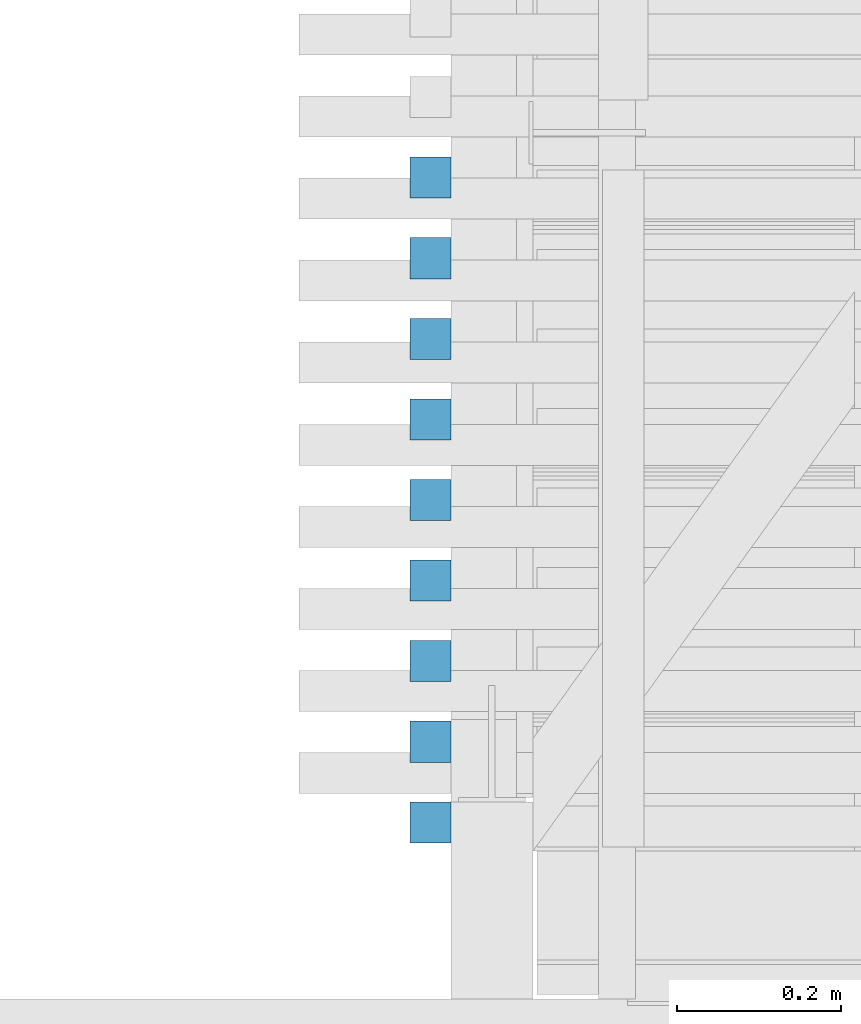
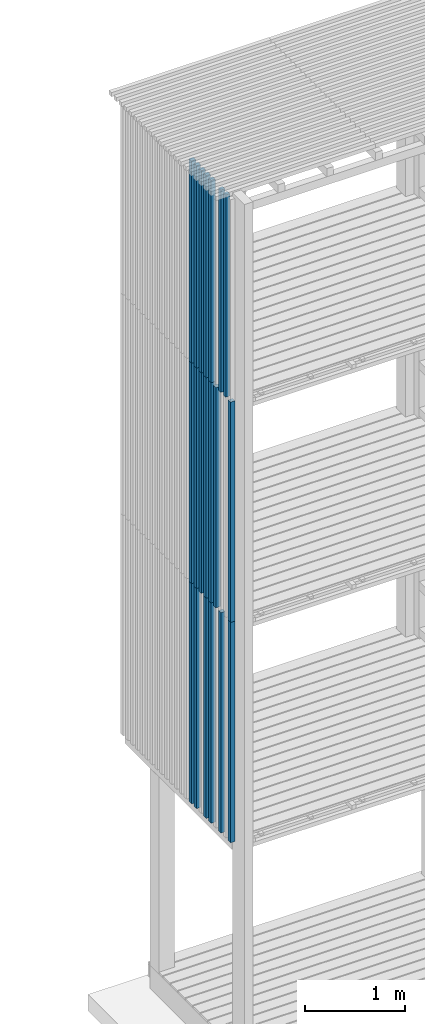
# One storey, part 135 of 182: 20 beams.
"""IFC2X3 building model written with IfcOpenShell, lengths in metres."""

from ifc_helpers import new_model, si_unit, frame, origin, place, context, project, spatial, faceted_brep, element, save


model = new_model("IFC2X3")

# Units and contexts
model_context = context("Model", 3, precision=1e-06, world=origin())
ifc_project = project(units=[si_unit("LENGTHUNIT", "METRE"), si_unit("PLANEANGLEUNIT", "RADIAN")], contexts=[model_context])

# Site, building, storey
site = spatial("IfcSite", under=ifc_project, CompositionType="ELEMENT")
building = spatial("IfcBuilding", under=site, CompositionType="ELEMENT")
storey = spatial("IfcBuildingStorey", under=building, Name="vs", CompositionType="ELEMENT", Elevation=-0.85)

# Beams
placement = place(None, origin())
beam_1_placement = place(placement, frame((33.029999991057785, 10.979623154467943, 5.274999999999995), z_axis=(1.0, 0.0, 0.0), x_axis=(0.0, 1e-15, 1.0)))
element("IfcBeam", 1, at=beam_1_placement, inside=storey, Name="Bardage", context=model_context, shape_type="Brep", body=[
    faceted_brep([(2.699999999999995, 0.025000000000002, 0.025000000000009), (2.699999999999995, -0.024999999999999, 0.025000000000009), (2.699999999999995, -0.024999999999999, -0.025000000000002), (2.699999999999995, 0.025000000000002, -0.025000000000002), (1e-15, 0.024999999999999, 0.025000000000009), (2.699999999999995, 0.025000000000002, 0.025000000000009), (2.699999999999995, 0.025000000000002, -0.025000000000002), (1e-15, 0.024999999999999, -0.025000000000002), (1e-15, -0.025000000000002, 0.025000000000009), (1e-15, 0.024999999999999, 0.025000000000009), (1e-15, 0.024999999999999, -0.025000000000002), (1e-15, -0.025000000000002, -0.025000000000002), (1e-15, 0.024999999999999, 0.025000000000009), (1e-15, -0.025000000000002, 0.025000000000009), (2.699999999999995, -0.024999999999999, 0.025000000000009), (2.699999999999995, 0.025000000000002, 0.025000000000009), (1e-15, -0.025000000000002, 0.025000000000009), (1e-15, -0.025000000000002, -0.025000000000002), (2.699999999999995, -0.024999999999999, -0.025000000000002), (2.699999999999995, -0.024999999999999, 0.025000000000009), (1e-15, -0.025000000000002, -0.025000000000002), (1e-15, 0.024999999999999, -0.025000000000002), (2.699999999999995, 0.025000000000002, -0.025000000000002), (2.699999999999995, -0.024999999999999, -0.025000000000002)], [[[0, 1, 2, 3]], [[4, 5, 6, 7]], [[8, 9, 10, 11]], [[12, 13, 14, 15]], [[16, 17, 18, 19]], [[20, 21, 22, 23]]]),
])
beam_2_placement = place(placement, frame((33.029999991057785, 11.274168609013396, 5.274999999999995), z_axis=(1.0, 0.0, 0.0), x_axis=(0.0, 0.0, 1.0)))
element("IfcBeam", 2, at=beam_2_placement, inside=storey, Name="Bardage", context=model_context, shape_type="Brep", body=[
    faceted_brep([(2.699999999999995, 0.025000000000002, 0.025000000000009), (2.699999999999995, -0.025000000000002, 0.025000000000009), (2.699999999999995, -0.025000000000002, -0.025000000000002), (2.699999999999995, 0.025000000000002, -0.025000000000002), (1e-15, 0.025000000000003, 0.025000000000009), (2.699999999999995, 0.025000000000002, 0.025000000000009), (2.699999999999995, 0.025000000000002, -0.025000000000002), (1e-15, 0.025000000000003, -0.025000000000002), (1e-15, -0.025000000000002, 0.025000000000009), (1e-15, 0.025000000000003, 0.025000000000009), (1e-15, 0.025000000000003, -0.025000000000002), (1e-15, -0.025000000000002, -0.025000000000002), (1e-15, 0.025000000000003, 0.025000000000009), (1e-15, -0.025000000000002, 0.025000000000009), (2.699999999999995, -0.025000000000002, 0.025000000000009), (2.699999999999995, 0.025000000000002, 0.025000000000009), (1e-15, -0.025000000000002, 0.025000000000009), (1e-15, -0.025000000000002, -0.025000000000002), (2.699999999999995, -0.025000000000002, -0.025000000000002), (2.699999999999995, -0.025000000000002, 0.025000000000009), (1e-15, -0.025000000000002, -0.025000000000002), (1e-15, 0.025000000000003, -0.025000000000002), (2.699999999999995, 0.025000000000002, -0.025000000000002), (2.699999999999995, -0.025000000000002, -0.025000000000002)], [[[0, 1, 2, 3]], [[4, 5, 6, 7]], [[8, 9, 10, 11]], [[12, 13, 14, 15]], [[16, 17, 18, 19]], [[20, 21, 22, 23]]]),
])
beam_3_placement = place(placement, frame((33.029999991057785, 10.6850776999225, 5.274999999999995), z_axis=(1.0, 0.0, 0.0), x_axis=(0.0, 0.0, 1.0)))
element("IfcBeam", 3, at=beam_3_placement, inside=storey, Name="Bardage", context=model_context, shape_type="Brep", body=[
    faceted_brep([(2.699999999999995, 0.025000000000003, 0.025000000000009), (2.699999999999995, -0.024999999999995, 0.025000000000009), (2.699999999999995, -0.024999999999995, -0.025000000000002), (2.699999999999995, 0.025000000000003, -0.025000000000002), (1e-15, 0.025000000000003, 0.025000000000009), (2.699999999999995, 0.025000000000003, 0.025000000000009), (2.699999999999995, 0.025000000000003, -0.025000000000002), (1e-15, 0.025000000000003, -0.025000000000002), (1e-15, -0.024999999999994, 0.025000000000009), (1e-15, 0.025000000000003, 0.025000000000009), (1e-15, 0.025000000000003, -0.025000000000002), (1e-15, -0.024999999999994, -0.025000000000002), (1e-15, 0.025000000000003, 0.025000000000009), (1e-15, -0.024999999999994, 0.025000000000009), (2.699999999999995, -0.024999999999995, 0.025000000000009), (2.699999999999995, 0.025000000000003, 0.025000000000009), (1e-15, -0.024999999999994, 0.025000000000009), (1e-15, -0.024999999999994, -0.025000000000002), (2.699999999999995, -0.024999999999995, -0.025000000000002), (2.699999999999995, -0.024999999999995, 0.025000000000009), (1e-15, -0.024999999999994, -0.025000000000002), (1e-15, 0.025000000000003, -0.025000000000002), (2.699999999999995, 0.025000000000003, -0.025000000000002), (2.699999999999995, -0.024999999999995, -0.025000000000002)], [[[0, 1, 2, 3]], [[4, 5, 6, 7]], [[8, 9, 10, 11]], [[12, 13, 14, 15]], [[16, 17, 18, 19]], [[20, 21, 22, 23]]]),
])
beam_4_placement = place(placement, frame((33.029999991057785, 11.470532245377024, 7.974999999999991), z_axis=(1.0, 0.0, 0.0), x_axis=(0.0, 0.0, 1.0)))
element("IfcBeam", 4, at=beam_4_placement, inside=storey, Name="Bardage", context=model_context, shape_type="Brep", body=[
    faceted_brep([(0.0, -0.025000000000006, 0.025000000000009), (0.0, 0.024999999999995, 0.025000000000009), (0.0, 0.024999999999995, -0.025000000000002), (0.0, -0.025000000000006, -0.025000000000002), (2.479999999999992, 0.024999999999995, -0.025000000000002), (2.479999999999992, 0.024999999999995, 0.025000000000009), (2.479999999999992, -0.025000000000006, 0.025000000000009), (2.479999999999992, -0.025000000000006, -0.025000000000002), (0.0, 0.024999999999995, 0.025000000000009), (0.0, -0.025000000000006, 0.025000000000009), (2.479999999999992, -0.025000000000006, 0.025000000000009), (2.479999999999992, 0.024999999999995, 0.025000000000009), (0.0, 0.024999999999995, -0.025000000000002), (0.0, 0.024999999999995, 0.025000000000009), (2.479999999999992, 0.024999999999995, 0.025000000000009), (2.479999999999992, 0.024999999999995, -0.025000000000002), (0.0, -0.025000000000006, -0.025000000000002), (0.0, 0.024999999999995, -0.025000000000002), (2.479999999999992, 0.024999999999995, -0.025000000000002), (2.479999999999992, -0.025000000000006, -0.025000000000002), (2.479999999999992, -0.025000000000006, 0.025000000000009), (0.0, -0.025000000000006, 0.025000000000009), (0.0, -0.025000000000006, -0.025000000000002), (2.479999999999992, -0.025000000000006, -0.025000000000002)], [[[0, 1, 2, 3]], [[4, 5, 6, 7]], [[8, 9, 10, 11]], [[12, 13, 14, 15]], [[16, 17, 18, 19]], [[20, 21, 22, 23]]]),
])
beam_5_placement = place(placement, frame((33.029999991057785, 11.175986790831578, 5.274999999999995), z_axis=(1.0, 0.0, 0.0), x_axis=(0.0, 0.0, 1.0)))
element("IfcBeam", 5, at=beam_5_placement, inside=storey, Name="Bardage", context=model_context, shape_type="Brep", body=[
    faceted_brep([(2.699999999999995, 0.024999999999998, 0.025000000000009), (2.699999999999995, -0.024999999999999, 0.025000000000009), (2.699999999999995, -0.024999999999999, -0.025000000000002), (2.699999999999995, 0.024999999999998, -0.025000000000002), (1e-15, 0.024999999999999, 0.025000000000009), (2.699999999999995, 0.024999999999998, 0.025000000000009), (2.699999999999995, 0.024999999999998, -0.025000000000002), (1e-15, 0.024999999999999, -0.025000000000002), (1e-15, -0.024999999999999, 0.025000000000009), (1e-15, 0.024999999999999, 0.025000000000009), (1e-15, 0.024999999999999, -0.025000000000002), (1e-15, -0.024999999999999, -0.025000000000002), (1e-15, 0.024999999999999, 0.025000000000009), (1e-15, -0.024999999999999, 0.025000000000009), (2.699999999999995, -0.024999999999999, 0.025000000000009), (2.699999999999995, 0.024999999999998, 0.025000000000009), (1e-15, -0.024999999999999, 0.025000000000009), (1e-15, -0.024999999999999, -0.025000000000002), (2.699999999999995, -0.024999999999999, -0.025000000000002), (2.699999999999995, -0.024999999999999, 0.025000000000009), (1e-15, -0.024999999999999, -0.025000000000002), (1e-15, 0.024999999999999, -0.025000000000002), (2.699999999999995, 0.024999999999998, -0.025000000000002), (2.699999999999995, -0.024999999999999, -0.025000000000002)], [[[0, 1, 2, 3]], [[4, 5, 6, 7]], [[8, 9, 10, 11]], [[12, 13, 14, 15]], [[16, 17, 18, 19]], [[20, 21, 22, 23]]]),
])
beam_6_placement = place(placement, frame((33.029999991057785, 11.372350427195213, 5.274999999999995), z_axis=(1.0, 0.0, 0.0), x_axis=(0.0, 0.0, 1.0)))
element("IfcBeam", 6, at=beam_6_placement, inside=storey, Name="Bardage", context=model_context, shape_type="Brep", body=[
    faceted_brep([(2.699999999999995, 0.024999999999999, 0.025000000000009), (2.699999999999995, -0.024999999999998, 0.025000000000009), (2.699999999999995, -0.024999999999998, -0.025000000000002), (2.699999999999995, 0.024999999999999, -0.025000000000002), (1e-15, 0.024999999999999, 0.025000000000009), (2.699999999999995, 0.024999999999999, 0.025000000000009), (2.699999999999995, 0.024999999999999, -0.025000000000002), (1e-15, 0.024999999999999, -0.025000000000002), (1e-15, -0.024999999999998, 0.025000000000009), (1e-15, 0.024999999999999, 0.025000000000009), (1e-15, 0.024999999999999, -0.025000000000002), (1e-15, -0.024999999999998, -0.025000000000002), (1e-15, 0.024999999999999, 0.025000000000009), (1e-15, -0.024999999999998, 0.025000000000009), (2.699999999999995, -0.024999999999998, 0.025000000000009), (2.699999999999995, 0.024999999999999, 0.025000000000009), (1e-15, -0.024999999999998, 0.025000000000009), (1e-15, -0.024999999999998, -0.025000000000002), (2.699999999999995, -0.024999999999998, -0.025000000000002), (2.699999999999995, -0.024999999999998, 0.025000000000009), (1e-15, -0.024999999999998, -0.025000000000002), (1e-15, 0.024999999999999, -0.025000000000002), (2.699999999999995, 0.024999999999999, -0.025000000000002), (2.699999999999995, -0.024999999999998, -0.025000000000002)], [[[0, 1, 2, 3]], [[4, 5, 6, 7]], [[8, 9, 10, 11]], [[12, 13, 14, 15]], [[16, 17, 18, 19]], [[20, 21, 22, 23]]]),
])
beam_7_placement = place(placement, frame((33.029999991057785, 11.077804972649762, 2.575000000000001), z_axis=(1.0, 0.0, 0.0), x_axis=(0.0, 0.0, 1.0)))
element("IfcBeam", 7, at=beam_7_placement, inside=storey, Name="Bardage", context=model_context, shape_type="Brep", body=[
    faceted_brep([(2.699961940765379, -0.024999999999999, 0.025000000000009), (2.699961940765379, -0.024999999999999, -0.025000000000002), (2.699961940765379, 0.025000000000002, -0.025000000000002), (2.699961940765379, 0.025000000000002, 0.025000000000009), (0.0, -0.024999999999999, 0.025000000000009), (2.699961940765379, -0.024999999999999, 0.025000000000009), (2.699961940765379, 0.025000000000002, 0.025000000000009), (0.0, 0.025000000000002, 0.025000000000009), (0.0, -0.024999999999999, 0.025000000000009), (0.0, 0.025000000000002, 0.025000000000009), (0.0, 0.025000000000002, -0.025000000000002), (0.0, -0.024999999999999, -0.025000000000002), (0.0, -0.024999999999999, 0.025000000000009), (0.0, -0.024999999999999, -0.025000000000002), (2.699961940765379, -0.024999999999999, -0.025000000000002), (2.699961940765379, -0.024999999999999, 0.025000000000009), (0.0, -0.024999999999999, -0.025000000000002), (0.0, 0.025000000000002, -0.025000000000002), (2.699961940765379, 0.025000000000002, -0.025000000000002), (2.699961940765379, -0.024999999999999, -0.025000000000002), (0.0, 0.025000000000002, -0.025000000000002), (0.0, 0.025000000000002, 0.025000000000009), (2.699961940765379, 0.025000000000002, 0.025000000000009), (2.699961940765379, 0.025000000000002, -0.025000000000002)], [[[0, 1, 2, 3]], [[4, 5, 6, 7]], [[8, 9, 10, 11]], [[12, 13, 14, 15]], [[16, 17, 18, 19]], [[20, 21, 22, 23]]]),
])
beam_8_placement = place(placement, frame((33.029999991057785, 10.783259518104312, 7.974999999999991), z_axis=(1.0, 0.0, 0.0), x_axis=(0.0, 0.0, 1.0)))
element("IfcBeam", 8, at=beam_8_placement, inside=storey, Name="Bardage", context=model_context, shape_type="Brep", body=[
    faceted_brep([(0.0, -0.024999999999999, 0.025000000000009), (0.0, 0.025000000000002, 0.025000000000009), (0.0, 0.025000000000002, -0.025000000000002), (0.0, -0.024999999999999, -0.025000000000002), (2.479999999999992, 0.025000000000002, -0.025000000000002), (2.479999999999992, 0.025000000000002, 0.025000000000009), (2.479999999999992, -0.024999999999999, 0.025000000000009), (2.479999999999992, -0.024999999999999, -0.025000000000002), (0.0, 0.025000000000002, 0.025000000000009), (0.0, -0.024999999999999, 0.025000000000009), (2.479999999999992, -0.024999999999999, 0.025000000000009), (2.479999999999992, 0.025000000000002, 0.025000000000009), (0.0, 0.025000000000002, -0.025000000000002), (0.0, 0.025000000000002, 0.025000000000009), (2.479999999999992, 0.025000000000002, 0.025000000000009), (2.479999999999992, 0.025000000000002, -0.025000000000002), (0.0, -0.024999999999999, -0.025000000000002), (0.0, 0.025000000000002, -0.025000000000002), (2.479999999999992, 0.025000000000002, -0.025000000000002), (2.479999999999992, -0.024999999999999, -0.025000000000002), (2.479999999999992, -0.024999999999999, 0.025000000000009), (0.0, -0.024999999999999, 0.025000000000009), (0.0, -0.024999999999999, -0.025000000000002), (2.479999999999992, -0.024999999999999, -0.025000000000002)], [[[0, 1, 2, 3]], [[4, 5, 6, 7]], [[8, 9, 10, 11]], [[12, 13, 14, 15]], [[16, 17, 18, 19]], [[20, 21, 22, 23]]]),
])
beam_9_placement = place(placement, frame((33.029999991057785, 10.881441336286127, 7.974999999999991), z_axis=(1.0, 0.0, 0.0), x_axis=(0.0, 0.0, 1.0)))
element("IfcBeam", 9, at=beam_9_placement, inside=storey, Name="Bardage", context=model_context, shape_type="Brep", body=[
    faceted_brep([(0.0, -0.024999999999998, 0.025000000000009), (0.0, 0.024999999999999, 0.025000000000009), (0.0, 0.024999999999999, -0.025000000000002), (0.0, -0.024999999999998, -0.025000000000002), (2.479999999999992, 0.024999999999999, -0.025000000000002), (2.479999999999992, 0.024999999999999, 0.025000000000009), (2.479999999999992, -0.024999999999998, 0.025000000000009), (2.479999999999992, -0.024999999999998, -0.025000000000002), (0.0, 0.024999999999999, 0.025000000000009), (0.0, -0.024999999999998, 0.025000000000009), (2.479999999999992, -0.024999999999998, 0.025000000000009), (2.479999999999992, 0.024999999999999, 0.025000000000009), (0.0, 0.024999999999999, -0.025000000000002), (0.0, 0.024999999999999, 0.025000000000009), (2.479999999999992, 0.024999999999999, 0.025000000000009), (2.479999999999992, 0.024999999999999, -0.025000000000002), (0.0, -0.024999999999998, -0.025000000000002), (0.0, 0.024999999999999, -0.025000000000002), (2.479999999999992, 0.024999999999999, -0.025000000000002), (2.479999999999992, -0.024999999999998, -0.025000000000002), (2.479999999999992, -0.024999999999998, 0.025000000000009), (0.0, -0.024999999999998, 0.025000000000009), (0.0, -0.024999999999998, -0.025000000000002), (2.479999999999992, -0.024999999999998, -0.025000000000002)], [[[0, 1, 2, 3]], [[4, 5, 6, 7]], [[8, 9, 10, 11]], [[12, 13, 14, 15]], [[16, 17, 18, 19]], [[20, 21, 22, 23]]]),
])
beam_10_placement = place(placement, frame((33.029999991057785, 11.175986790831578, 2.575000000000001), z_axis=(1.0, 0.0, 0.0), x_axis=(0.0, 0.0, 1.0)))
element("IfcBeam", 10, at=beam_10_placement, inside=storey, Name="Bardage", context=model_context, shape_type="Brep", body=[
    faceted_brep([(2.699961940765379, -0.025000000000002, 0.025000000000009), (2.699961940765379, -0.025000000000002, -0.025000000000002), (2.699961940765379, 0.024999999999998, -0.025000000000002), (2.699961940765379, 0.024999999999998, 0.025000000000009), (0.0, -0.024999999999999, 0.025000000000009), (2.699961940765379, -0.025000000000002, 0.025000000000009), (2.699961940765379, 0.024999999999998, 0.025000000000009), (0.0, 0.024999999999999, 0.025000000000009), (0.0, -0.024999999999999, 0.025000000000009), (0.0, 0.024999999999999, 0.025000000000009), (0.0, 0.024999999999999, -0.025000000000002), (0.0, -0.024999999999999, -0.025000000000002), (0.0, -0.024999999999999, 0.025000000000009), (0.0, -0.024999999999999, -0.025000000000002), (2.699961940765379, -0.025000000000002, -0.025000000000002), (2.699961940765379, -0.025000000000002, 0.025000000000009), (0.0, -0.024999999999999, -0.025000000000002), (0.0, 0.024999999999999, -0.025000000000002), (2.699961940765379, 0.024999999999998, -0.025000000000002), (2.699961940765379, -0.025000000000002, -0.025000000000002), (0.0, 0.024999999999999, -0.025000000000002), (0.0, 0.024999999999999, 0.025000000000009), (2.699961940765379, 0.024999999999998, 0.025000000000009), (2.699961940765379, 0.024999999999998, -0.025000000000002)], [[[0, 1, 2, 3]], [[4, 5, 6, 7]], [[8, 9, 10, 11]], [[12, 13, 14, 15]], [[16, 17, 18, 19]], [[20, 21, 22, 23]]]),
])
beam_11_placement = place(placement, frame((33.029999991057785, 11.372350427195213, 7.974999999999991), z_axis=(1.0, 0.0, 0.0), x_axis=(0.0, 0.0, 1.0)))
element("IfcBeam", 11, at=beam_11_placement, inside=storey, Name="Bardage", context=model_context, shape_type="Brep", body=[
    faceted_brep([(0.0, -0.024999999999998, 0.025000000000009), (0.0, 0.024999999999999, 0.025000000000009), (0.0, 0.024999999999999, -0.025000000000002), (0.0, -0.024999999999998, -0.025000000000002), (2.479999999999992, 0.024999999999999, -0.025000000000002), (2.479999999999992, 0.024999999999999, 0.025000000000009), (2.479999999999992, -0.024999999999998, 0.025000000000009), (2.479999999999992, -0.024999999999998, -0.025000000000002), (0.0, 0.024999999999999, 0.025000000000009), (0.0, -0.024999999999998, 0.025000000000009), (2.479999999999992, -0.024999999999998, 0.025000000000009), (2.479999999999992, 0.024999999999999, 0.025000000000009), (0.0, 0.024999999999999, -0.025000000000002), (0.0, 0.024999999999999, 0.025000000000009), (2.479999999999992, 0.024999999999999, 0.025000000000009), (2.479999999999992, 0.024999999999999, -0.025000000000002), (0.0, -0.024999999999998, -0.025000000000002), (0.0, 0.024999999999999, -0.025000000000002), (2.479999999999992, 0.024999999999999, -0.025000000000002), (2.479999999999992, -0.024999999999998, -0.025000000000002), (2.479999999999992, -0.024999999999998, 0.025000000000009), (0.0, -0.024999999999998, 0.025000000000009), (0.0, -0.024999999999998, -0.025000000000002), (2.479999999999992, -0.024999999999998, -0.025000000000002)], [[[0, 1, 2, 3]], [[4, 5, 6, 7]], [[8, 9, 10, 11]], [[12, 13, 14, 15]], [[16, 17, 18, 19]], [[20, 21, 22, 23]]]),
])
beam_12_placement = place(placement, frame((33.029999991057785, 11.372350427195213, 2.575000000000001), z_axis=(1.0, 0.0, 0.0), x_axis=(0.0, 0.0, 1.0)))
element("IfcBeam", 12, at=beam_12_placement, inside=storey, Name="Bardage", context=model_context, shape_type="Brep", body=[
    faceted_brep([(2.699961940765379, -0.024999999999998, 0.025000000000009), (2.699961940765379, -0.024999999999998, -0.025000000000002), (2.699961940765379, 0.024999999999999, -0.025000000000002), (2.699961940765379, 0.024999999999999, 0.025000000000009), (0.0, -0.024999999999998, 0.025000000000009), (2.699961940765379, -0.024999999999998, 0.025000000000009), (2.699961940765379, 0.024999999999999, 0.025000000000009), (0.0, 0.024999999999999, 0.025000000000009), (0.0, -0.024999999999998, 0.025000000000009), (0.0, 0.024999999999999, 0.025000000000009), (0.0, 0.024999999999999, -0.025000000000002), (0.0, -0.024999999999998, -0.025000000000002), (0.0, -0.024999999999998, 0.025000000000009), (0.0, -0.024999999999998, -0.025000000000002), (2.699961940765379, -0.024999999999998, -0.025000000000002), (2.699961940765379, -0.024999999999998, 0.025000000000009), (0.0, -0.024999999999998, -0.025000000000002), (0.0, 0.024999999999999, -0.025000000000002), (2.699961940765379, 0.024999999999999, -0.025000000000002), (2.699961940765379, -0.024999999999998, -0.025000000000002), (0.0, 0.024999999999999, -0.025000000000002), (0.0, 0.024999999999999, 0.025000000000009), (2.699961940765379, 0.024999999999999, 0.025000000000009), (2.699961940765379, 0.024999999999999, -0.025000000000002)], [[[0, 1, 2, 3]], [[4, 5, 6, 7]], [[8, 9, 10, 11]], [[12, 13, 14, 15]], [[16, 17, 18, 19]], [[20, 21, 22, 23]]]),
])
beam_13_placement = place(placement, frame((33.029999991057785, 11.175986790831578, 7.974999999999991), z_axis=(1.0, 0.0, 0.0), x_axis=(0.0, 0.0, 1.0)))
element("IfcBeam", 13, at=beam_13_placement, inside=storey, Name="Bardage", context=model_context, shape_type="Brep", body=[
    faceted_brep([(0.0, -0.024999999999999, 0.025000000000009), (0.0, 0.024999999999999, 0.025000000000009), (0.0, 0.024999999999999, -0.025000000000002), (0.0, -0.024999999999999, -0.025000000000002), (2.479999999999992, 0.024999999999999, -0.025000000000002), (2.479999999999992, 0.024999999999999, 0.025000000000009), (2.479999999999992, -0.024999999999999, 0.025000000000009), (2.479999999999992, -0.024999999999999, -0.025000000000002), (0.0, 0.024999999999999, 0.025000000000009), (0.0, -0.024999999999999, 0.025000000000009), (2.479999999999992, -0.024999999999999, 0.025000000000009), (2.479999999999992, 0.024999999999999, 0.025000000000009), (0.0, 0.024999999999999, -0.025000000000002), (0.0, 0.024999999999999, 0.025000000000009), (2.479999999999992, 0.024999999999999, 0.025000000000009), (2.479999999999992, 0.024999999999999, -0.025000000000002), (0.0, -0.024999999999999, -0.025000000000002), (0.0, 0.024999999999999, -0.025000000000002), (2.479999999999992, 0.024999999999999, -0.025000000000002), (2.479999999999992, -0.024999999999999, -0.025000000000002), (2.479999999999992, -0.024999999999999, 0.025000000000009), (0.0, -0.024999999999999, 0.025000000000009), (0.0, -0.024999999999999, -0.025000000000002), (2.479999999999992, -0.024999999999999, -0.025000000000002)], [[[0, 1, 2, 3]], [[4, 5, 6, 7]], [[8, 9, 10, 11]], [[12, 13, 14, 15]], [[16, 17, 18, 19]], [[20, 21, 22, 23]]]),
])
beam_14_placement = place(placement, frame((33.029999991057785, 10.6850776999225, 2.575000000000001), z_axis=(1.0, 0.0, 0.0), x_axis=(0.0, 0.0, 1.0)))
element("IfcBeam", 14, at=beam_14_placement, inside=storey, Name="Bardage", context=model_context, shape_type="Brep", body=[
    faceted_brep([(2.699961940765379, -0.024999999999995, 0.025000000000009), (2.699961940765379, -0.024999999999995, -0.025000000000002), (2.699961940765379, 0.025000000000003, -0.025000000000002), (2.699961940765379, 0.025000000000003, 0.025000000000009), (0.0, -0.024999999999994, 0.025000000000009), (2.699961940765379, -0.024999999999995, 0.025000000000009), (2.699961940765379, 0.025000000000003, 0.025000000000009), (0.0, 0.025000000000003, 0.025000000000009), (0.0, -0.024999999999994, 0.025000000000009), (0.0, 0.025000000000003, 0.025000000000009), (0.0, 0.025000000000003, -0.025000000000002), (0.0, -0.024999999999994, -0.025000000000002), (0.0, -0.024999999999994, 0.025000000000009), (0.0, -0.024999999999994, -0.025000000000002), (2.699961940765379, -0.024999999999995, -0.025000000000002), (2.699961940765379, -0.024999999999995, 0.025000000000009), (0.0, -0.024999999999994, -0.025000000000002), (0.0, 0.025000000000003, -0.025000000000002), (2.699961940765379, 0.025000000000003, -0.025000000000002), (2.699961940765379, -0.024999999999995, -0.025000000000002), (0.0, 0.025000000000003, -0.025000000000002), (0.0, 0.025000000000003, 0.025000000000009), (2.699961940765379, 0.025000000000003, 0.025000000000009), (2.699961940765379, 0.025000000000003, -0.025000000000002)], [[[0, 1, 2, 3]], [[4, 5, 6, 7]], [[8, 9, 10, 11]], [[12, 13, 14, 15]], [[16, 17, 18, 19]], [[20, 21, 22, 23]]]),
])
beam_15_placement = place(placement, frame((33.029999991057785, 10.881441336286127, 2.575000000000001), z_axis=(1.0, 0.0, 0.0), x_axis=(0.0, 0.0, 1.0)))
element("IfcBeam", 15, at=beam_15_placement, inside=storey, Name="Bardage", context=model_context, shape_type="Brep", body=[
    faceted_brep([(2.699961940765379, -0.024999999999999, 0.025000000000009), (2.699961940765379, -0.024999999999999, -0.025000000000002), (2.699961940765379, 0.024999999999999, -0.025000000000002), (2.699961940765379, 0.024999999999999, 0.025000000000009), (0.0, -0.024999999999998, 0.025000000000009), (2.699961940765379, -0.024999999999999, 0.025000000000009), (2.699961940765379, 0.024999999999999, 0.025000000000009), (0.0, 0.024999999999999, 0.025000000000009), (0.0, -0.024999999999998, 0.025000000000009), (0.0, 0.024999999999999, 0.025000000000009), (0.0, 0.024999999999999, -0.025000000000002), (0.0, -0.024999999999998, -0.025000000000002), (0.0, -0.024999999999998, 0.025000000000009), (0.0, -0.024999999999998, -0.025000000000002), (2.699961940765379, -0.024999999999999, -0.025000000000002), (2.699961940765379, -0.024999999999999, 0.025000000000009), (0.0, -0.024999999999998, -0.025000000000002), (0.0, 0.024999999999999, -0.025000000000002), (2.699961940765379, 0.024999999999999, -0.025000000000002), (2.699961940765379, -0.024999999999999, -0.025000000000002), (0.0, 0.024999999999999, -0.025000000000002), (0.0, 0.024999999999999, 0.025000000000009), (2.699961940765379, 0.024999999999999, 0.025000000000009), (2.699961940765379, 0.024999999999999, -0.025000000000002)], [[[0, 1, 2, 3]], [[4, 5, 6, 7]], [[8, 9, 10, 11]], [[12, 13, 14, 15]], [[16, 17, 18, 19]], [[20, 21, 22, 23]]]),
])
beam_16_placement = place(placement, frame((33.029999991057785, 11.077804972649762, 5.274999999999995), z_axis=(1.0, 0.0, 0.0), x_axis=(0.0, 0.0, 1.0)))
element("IfcBeam", 16, at=beam_16_placement, inside=storey, Name="Bardage", context=model_context, shape_type="Brep", body=[
    faceted_brep([(2.699999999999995, 0.025000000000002, 0.025000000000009), (2.699999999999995, -0.024999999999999, 0.025000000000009), (2.699999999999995, -0.024999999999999, -0.025000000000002), (2.699999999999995, 0.025000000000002, -0.025000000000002), (1e-15, 0.025000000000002, 0.025000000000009), (2.699999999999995, 0.025000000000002, 0.025000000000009), (2.699999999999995, 0.025000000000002, -0.025000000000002), (1e-15, 0.025000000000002, -0.025000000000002), (1e-15, -0.024999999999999, 0.025000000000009), (1e-15, 0.025000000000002, 0.025000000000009), (1e-15, 0.025000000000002, -0.025000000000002), (1e-15, -0.024999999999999, -0.025000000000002), (1e-15, 0.025000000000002, 0.025000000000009), (1e-15, -0.024999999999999, 0.025000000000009), (2.699999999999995, -0.024999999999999, 0.025000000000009), (2.699999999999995, 0.025000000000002, 0.025000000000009), (1e-15, -0.024999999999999, 0.025000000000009), (1e-15, -0.024999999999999, -0.025000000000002), (2.699999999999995, -0.024999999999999, -0.025000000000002), (2.699999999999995, -0.024999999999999, 0.025000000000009), (1e-15, -0.024999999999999, -0.025000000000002), (1e-15, 0.025000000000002, -0.025000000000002), (2.699999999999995, 0.025000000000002, -0.025000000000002), (2.699999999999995, -0.024999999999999, -0.025000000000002)], [[[0, 1, 2, 3]], [[4, 5, 6, 7]], [[8, 9, 10, 11]], [[12, 13, 14, 15]], [[16, 17, 18, 19]], [[20, 21, 22, 23]]]),
])
beam_17_placement = place(placement, frame((33.029999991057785, 11.470532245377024, 5.274999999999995), z_axis=(1.0, 0.0, 0.0), x_axis=(0.0, 0.0, 1.0)))
element("IfcBeam", 17, at=beam_17_placement, inside=storey, Name="Bardage", context=model_context, shape_type="Brep", body=[
    faceted_brep([(2.699999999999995, 0.024999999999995, 0.025000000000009), (2.699999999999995, -0.025000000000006, 0.025000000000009), (2.699999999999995, -0.025000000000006, -0.025000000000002), (2.699999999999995, 0.024999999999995, -0.025000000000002), (1e-15, 0.024999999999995, 0.025000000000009), (2.699999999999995, 0.024999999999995, 0.025000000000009), (2.699999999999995, 0.024999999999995, -0.025000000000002), (1e-15, 0.024999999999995, -0.025000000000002), (1e-15, -0.025000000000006, 0.025000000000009), (1e-15, 0.024999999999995, 0.025000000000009), (1e-15, 0.024999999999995, -0.025000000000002), (1e-15, -0.025000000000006, -0.025000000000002), (1e-15, 0.024999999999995, 0.025000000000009), (1e-15, -0.025000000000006, 0.025000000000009), (2.699999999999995, -0.025000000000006, 0.025000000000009), (2.699999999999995, 0.024999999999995, 0.025000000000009), (1e-15, -0.025000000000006, 0.025000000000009), (1e-15, -0.025000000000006, -0.025000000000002), (2.699999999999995, -0.025000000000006, -0.025000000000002), (2.699999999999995, -0.025000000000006, 0.025000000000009), (1e-15, -0.025000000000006, -0.025000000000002), (1e-15, 0.024999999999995, -0.025000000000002), (2.699999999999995, 0.024999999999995, -0.025000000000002), (2.699999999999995, -0.025000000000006, -0.025000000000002)], [[[0, 1, 2, 3]], [[4, 5, 6, 7]], [[8, 9, 10, 11]], [[12, 13, 14, 15]], [[16, 17, 18, 19]], [[20, 21, 22, 23]]]),
])
beam_18_placement = place(placement, frame((33.029999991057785, 11.077804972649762, 7.974999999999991), z_axis=(1.0, 0.0, 0.0), x_axis=(0.0, 0.0, 1.0)))
element("IfcBeam", 18, at=beam_18_placement, inside=storey, Name="Bardage", context=model_context, shape_type="Brep", body=[
    faceted_brep([(0.0, -0.024999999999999, 0.025000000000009), (0.0, 0.025000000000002, 0.025000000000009), (0.0, 0.025000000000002, -0.025000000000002), (0.0, -0.024999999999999, -0.025000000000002), (2.479999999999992, 0.025000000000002, -0.025000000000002), (2.479999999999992, 0.025000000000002, 0.025000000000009), (2.479999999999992, -0.024999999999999, 0.025000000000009), (2.479999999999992, -0.024999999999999, -0.025000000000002), (0.0, 0.025000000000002, 0.025000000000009), (0.0, -0.024999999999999, 0.025000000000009), (2.479999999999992, -0.024999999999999, 0.025000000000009), (2.479999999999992, 0.025000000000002, 0.025000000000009), (0.0, 0.025000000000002, -0.025000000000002), (0.0, 0.025000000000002, 0.025000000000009), (2.479999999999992, 0.025000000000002, 0.025000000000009), (2.479999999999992, 0.025000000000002, -0.025000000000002), (0.0, -0.024999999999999, -0.025000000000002), (0.0, 0.025000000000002, -0.025000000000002), (2.479999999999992, 0.025000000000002, -0.025000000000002), (2.479999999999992, -0.024999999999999, -0.025000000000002), (2.479999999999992, -0.024999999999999, 0.025000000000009), (0.0, -0.024999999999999, 0.025000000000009), (0.0, -0.024999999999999, -0.025000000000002), (2.479999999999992, -0.024999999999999, -0.025000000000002)], [[[0, 1, 2, 3]], [[4, 5, 6, 7]], [[8, 9, 10, 11]], [[12, 13, 14, 15]], [[16, 17, 18, 19]], [[20, 21, 22, 23]]]),
])
beam_19_placement = place(placement, frame((33.029999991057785, 11.274168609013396, 7.974999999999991), z_axis=(1.0, 0.0, 0.0), x_axis=(0.0, 0.0, 1.0)))
element("IfcBeam", 19, at=beam_19_placement, inside=storey, Name="Bardage", context=model_context, shape_type="Brep", body=[
    faceted_brep([(0.0, -0.025000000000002, 0.025000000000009), (0.0, 0.025000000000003, 0.025000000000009), (0.0, 0.025000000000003, -0.025000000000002), (0.0, -0.025000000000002, -0.025000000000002), (2.479999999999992, 0.025000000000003, -0.025000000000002), (2.479999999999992, 0.025000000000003, 0.025000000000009), (2.479999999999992, -0.025000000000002, 0.025000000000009), (2.479999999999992, -0.025000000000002, -0.025000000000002), (0.0, 0.025000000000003, 0.025000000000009), (0.0, -0.025000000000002, 0.025000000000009), (2.479999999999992, -0.025000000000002, 0.025000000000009), (2.479999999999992, 0.025000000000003, 0.025000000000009), (0.0, 0.025000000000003, -0.025000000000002), (0.0, 0.025000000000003, 0.025000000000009), (2.479999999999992, 0.025000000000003, 0.025000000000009), (2.479999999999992, 0.025000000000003, -0.025000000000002), (0.0, -0.025000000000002, -0.025000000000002), (0.0, 0.025000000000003, -0.025000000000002), (2.479999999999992, 0.025000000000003, -0.025000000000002), (2.479999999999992, -0.025000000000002, -0.025000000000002), (2.479999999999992, -0.025000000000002, 0.025000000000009), (0.0, -0.025000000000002, 0.025000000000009), (0.0, -0.025000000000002, -0.025000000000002), (2.479999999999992, -0.025000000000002, -0.025000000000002)], [[[0, 1, 2, 3]], [[4, 5, 6, 7]], [[8, 9, 10, 11]], [[12, 13, 14, 15]], [[16, 17, 18, 19]], [[20, 21, 22, 23]]]),
])
beam_20_placement = place(placement, frame((33.029999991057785, 11.470532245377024, 2.575000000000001), z_axis=(1.0, 0.0, 0.0), x_axis=(0.0, 0.0, 1.0)))
element("IfcBeam", 20, at=beam_20_placement, inside=storey, Name="Bardage", context=model_context, shape_type="Brep", body=[
    faceted_brep([(2.699961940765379, -0.025000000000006, 0.025000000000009), (2.699961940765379, -0.025000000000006, -0.025000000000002), (2.699961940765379, 0.024999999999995, -0.025000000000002), (2.699961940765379, 0.024999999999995, 0.025000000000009), (0.0, -0.025000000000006, 0.025000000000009), (2.699961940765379, -0.025000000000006, 0.025000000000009), (2.699961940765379, 0.024999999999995, 0.025000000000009), (0.0, 0.024999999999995, 0.025000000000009), (0.0, -0.025000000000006, 0.025000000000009), (0.0, 0.024999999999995, 0.025000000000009), (0.0, 0.024999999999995, -0.025000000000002), (0.0, -0.025000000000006, -0.025000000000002), (0.0, -0.025000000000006, 0.025000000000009), (0.0, -0.025000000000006, -0.025000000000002), (2.699961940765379, -0.025000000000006, -0.025000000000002), (2.699961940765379, -0.025000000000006, 0.025000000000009), (0.0, -0.025000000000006, -0.025000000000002), (0.0, 0.024999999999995, -0.025000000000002), (2.699961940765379, 0.024999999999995, -0.025000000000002), (2.699961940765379, -0.025000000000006, -0.025000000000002), (0.0, 0.024999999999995, -0.025000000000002), (0.0, 0.024999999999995, 0.025000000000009), (2.699961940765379, 0.024999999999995, 0.025000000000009), (2.699961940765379, 0.024999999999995, -0.025000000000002)], [[[0, 1, 2, 3]], [[4, 5, 6, 7]], [[8, 9, 10, 11]], [[12, 13, 14, 15]], [[16, 17, 18, 19]], [[20, 21, 22, 23]]]),
])

save(model, "model.ifc")
